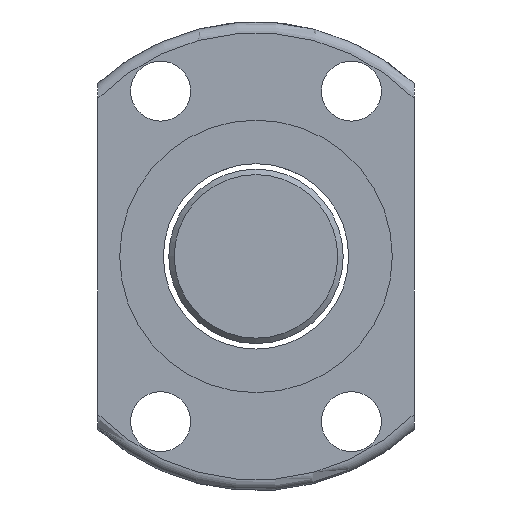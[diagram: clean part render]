
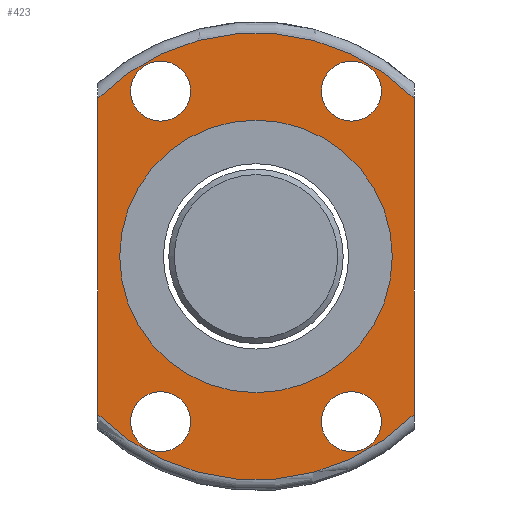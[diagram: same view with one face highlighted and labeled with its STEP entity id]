
A CAD part, left-side view. The second image highlights one B-rep face of the part: STEP entity #423.
In plain terms, the highlighted planar face has unit normal (-1, 0, 0).
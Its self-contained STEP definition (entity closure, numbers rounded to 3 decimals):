
#24=LINE('',#697,#32);
#26=LINE('',#719,#34);
#32=VECTOR('',#542,1000.);
#34=VECTOR('',#546,1000.);
#70=PLANE('',#493);
#125=ORIENTED_EDGE('',*,*,#221,.T.);
#126=ORIENTED_EDGE('',*,*,#198,.T.);
#127=ORIENTED_EDGE('',*,*,#222,.T.);
#128=ORIENTED_EDGE('',*,*,#203,.F.);
#129=ORIENTED_EDGE('',*,*,#207,.T.);
#130=ORIENTED_EDGE('',*,*,#209,.T.);
#131=ORIENTED_EDGE('',*,*,#211,.T.);
#132=ORIENTED_EDGE('',*,*,#213,.T.);
#133=ORIENTED_EDGE('',*,*,#217,.F.);
#198=EDGE_CURVE('',#252,#251,#24,.T.);
#203=EDGE_CURVE('',#255,#256,#26,.T.);
#207=EDGE_CURVE('',#259,#259,#282,.T.);
#209=EDGE_CURVE('',#261,#261,#284,.T.);
#211=EDGE_CURVE('',#263,#263,#286,.T.);
#213=EDGE_CURVE('',#265,#265,#288,.T.);
#217=EDGE_CURVE('',#269,#269,#292,.T.);
#221=EDGE_CURVE('',#255,#252,#296,.T.);
#222=EDGE_CURVE('',#251,#256,#297,.T.);
#251=VERTEX_POINT('',#696);
#252=VERTEX_POINT('',#698);
#255=VERTEX_POINT('',#718);
#256=VERTEX_POINT('',#720);
#259=VERTEX_POINT('',#736);
#261=VERTEX_POINT('',#741);
#263=VERTEX_POINT('',#746);
#265=VERTEX_POINT('',#751);
#269=VERTEX_POINT('',#761);
#282=CIRCLE('',#472,2.75);
#284=CIRCLE('',#475,2.75);
#286=CIRCLE('',#478,2.75);
#288=CIRCLE('',#481,2.75);
#292=CIRCLE('',#487,12.5);
#296=CIRCLE('',#494,20.5);
#297=CIRCLE('',#495,20.5);
#329=EDGE_LOOP('',(#125,#126,#127,#128));
#330=EDGE_LOOP('',(#129));
#331=EDGE_LOOP('',(#130));
#332=EDGE_LOOP('',(#131));
#333=EDGE_LOOP('',(#132));
#334=EDGE_LOOP('',(#133));
#380=FACE_BOUND('',#329,.T.);
#381=FACE_BOUND('',#330,.T.);
#382=FACE_BOUND('',#331,.T.);
#383=FACE_BOUND('',#332,.T.);
#384=FACE_BOUND('',#333,.T.);
#385=FACE_BOUND('',#334,.T.);
#423=ADVANCED_FACE('',(#380,#381,#382,#383,#384,#385),#70,.F.);
#472=AXIS2_PLACEMENT_3D('',#735,#550,#551);
#475=AXIS2_PLACEMENT_3D('',#740,#556,#557);
#478=AXIS2_PLACEMENT_3D('',#745,#562,#563);
#481=AXIS2_PLACEMENT_3D('',#750,#568,#569);
#487=AXIS2_PLACEMENT_3D('',#760,#580,#581);
#493=AXIS2_PLACEMENT_3D('',#767,#592,#593);
#494=AXIS2_PLACEMENT_3D('',#768,#594,#595);
#495=AXIS2_PLACEMENT_3D('',#769,#596,#597);
#542=DIRECTION('',(0.,0.,-1.));
#546=DIRECTION('',(0.,0.,-1.));
#550=DIRECTION('',(1.,0.,0.));
#551=DIRECTION('',(0.,1.,0.));
#556=DIRECTION('',(1.,0.,0.));
#557=DIRECTION('',(0.,1.,0.));
#562=DIRECTION('',(1.,0.,0.));
#563=DIRECTION('',(0.,1.,0.));
#568=DIRECTION('',(1.,0.,0.));
#569=DIRECTION('',(0.,1.,0.));
#580=DIRECTION('',(-1.,0.,0.));
#581=DIRECTION('',(0.,-1.,0.));
#592=DIRECTION('',(1.,0.,0.));
#593=DIRECTION('',(0.,1.,0.));
#594=DIRECTION('',(-1.,0.,0.));
#595=DIRECTION('',(0.,-1.,0.));
#596=DIRECTION('',(-1.,0.,0.));
#597=DIRECTION('',(0.,-1.,0.));
#696=CARTESIAN_POINT('',(-25.,14.5,-14.491));
#697=CARTESIAN_POINT('',(-25.,14.5,0.));
#698=CARTESIAN_POINT('',(-25.,14.5,14.491));
#718=CARTESIAN_POINT('',(-25.,-14.5,14.491));
#719=CARTESIAN_POINT('',(-25.,-14.5,0.));
#720=CARTESIAN_POINT('',(-25.,-14.5,-14.491));
#735=CARTESIAN_POINT('',(-25.,8.75,-15.16));
#736=CARTESIAN_POINT('',(-25.,11.5,-15.16));
#740=CARTESIAN_POINT('',(-25.,-8.75,-15.16));
#741=CARTESIAN_POINT('',(-25.,-6.,-15.16));
#745=CARTESIAN_POINT('',(-25.,-8.75,15.16));
#746=CARTESIAN_POINT('',(-25.,-6.,15.16));
#750=CARTESIAN_POINT('',(-25.,8.75,15.16));
#751=CARTESIAN_POINT('',(-25.,11.5,15.16));
#760=CARTESIAN_POINT('',(-25.,0.,0.));
#761=CARTESIAN_POINT('',(-25.,-12.5,0.));
#767=CARTESIAN_POINT('',(-25.,16.5,0.));
#768=CARTESIAN_POINT('',(-25.,0.,0.));
#769=CARTESIAN_POINT('',(-25.,0.,0.));
